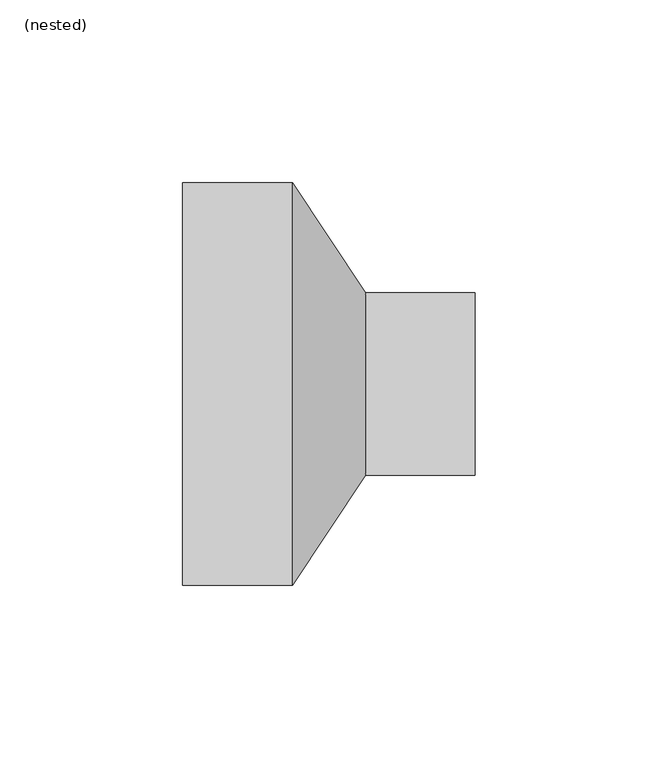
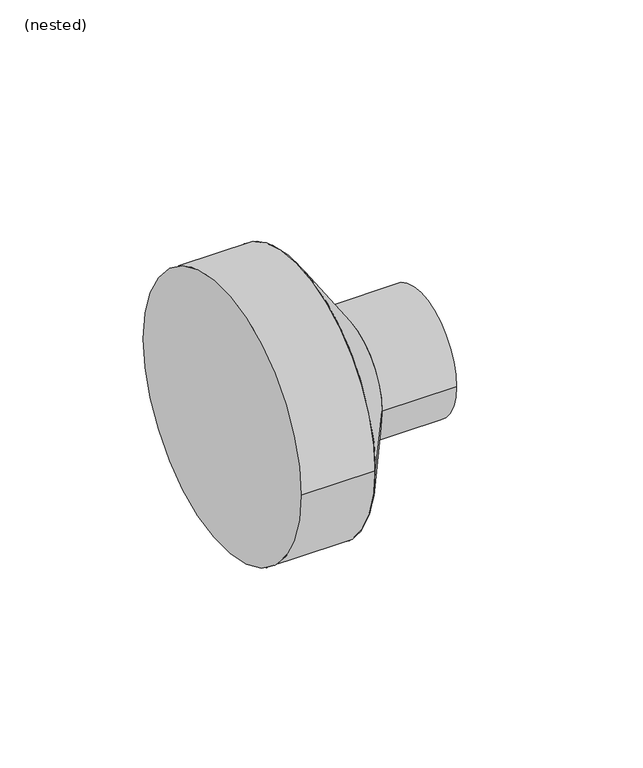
"""IFC4 building model written with IfcOpenShell, lengths in millimetres: pipe fitting geometry, NLRS_52_PIF_UN_PE verloop centrisch, kort_SH_geb : (nested)."""

from ifc_helpers import new_model, si_unit, point, frame, origin, origin_2d, place, context, project, spatial, polyline, circle_curve, trimmed, segment, composite_curve, outline, extrude, source, transform, mapped, element, save
from ifc_brep_helpers import plane_surface, revolved_surface, advanced_brep


def nested_ecac7f44(model_context):
    return source(origin(), model_context, "Body", "SolidModel", [
        advanced_brep(
        [(10.0, -25.0, 0.0), (10.0, 25.0, 0.0), (-10.0, -55.0, 0.0), (-10.0, 55.0, 0.0)],
        [
            (0, 1, circle_curve(frame((10.0, 0.0, 0.0), z_axis=(1.0, 0.0, 0.0), x_axis=(0.0, -1.0, 0.0)), 25.0)),
            (1, 0, circle_curve(frame((10.0, 0.0, 0.0), z_axis=(1.0, 0.0, 0.0), x_axis=(0.0, 1.0, 0.0)), 25.0)),
            (2, 3, circle_curve(frame((-10.0, 0.0, 0.0), z_axis=(-1.0, 0.0, 0.0), x_axis=(0.0, 1.0, 0.0)), 55.0)),
            (3, 2, circle_curve(frame((-10.0, 0.0, 0.0), z_axis=(-1.0, 0.0, 0.0), x_axis=(0.0, -1.0, 0.0)), 55.0)),
            (3, 1),
            (0, 2),
        ],
        [
            plane_surface(frame((10.0, 0.0, 0.0), z_axis=(1.0, 0.0, 0.0), x_axis=(0.0, 0.0, -1.0))),
            plane_surface(frame((-10.0, 0.0, 0.0), z_axis=(-1.0, 0.0, 0.0), x_axis=(0.0, 0.0, -1.0))),
            revolved_surface(polyline([(10.0, -25.000000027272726, 0.0), (-10.0, -55.0, 0.0)]), (26.6666667, 0.0, 0.0), (-1.0, 0.0, 0.0)),
            revolved_surface(polyline([(10.0, 25.000000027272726, 0.0), (-10.0, 55.0, 0.0)]), (26.6666667, 0.0, 0.0), (-1.0, 0.0, 0.0)),
        ],
        [
            (0, [[1, 2]]),
            (1, [[3, 4]]),
            (2, [[-4, 5, -1, 6]]),
            (3, [[-3, -6, -2, -5]]),
        ],
    ),
        extrude(outline(composite_curve([segment(trimmed(circle_curve(origin_2d(), 25.0), [point((-25.0, 0.0))], [point((25.0, 0.0))], False, "CARTESIAN"), True, "CONTINUOUS"), segment(trimmed(circle_curve(origin_2d(), 25.0), [point((25.0, 0.0))], [point((-25.0, 0.0))], False, "CARTESIAN"), True, "CONTINUOUS")], self_intersect=False)), frame((10.0, 0.0, 0.0), z_axis=(1.0, 0.0, 0.0), x_axis=(0.0, 1.0, 0.0)), (0.0, 0.0, 1.0), 30.0),
        extrude(outline(composite_curve([segment(trimmed(circle_curve(origin_2d(), 55.0), [point((-55.0, 0.0))], [point((55.0, 0.0))], False, "CARTESIAN"), True, "CONTINUOUS"), segment(trimmed(circle_curve(origin_2d(), 55.0), [point((55.0, 0.0))], [point((-55.0, 0.0))], False, "CARTESIAN"), True, "CONTINUOUS")], self_intersect=False)), frame((-40.0, 0.0, 0.0), z_axis=(1.0, 0.0, 0.0), x_axis=(0.0, 1.0, 0.0)), (0.0, 0.0, 1.0), 30.0),
    ])


if __name__ == "__main__":
    model = new_model("IFC4")
    model_context = context("Model", 3, world=origin())
    ifc_project = project(units=[si_unit("LENGTHUNIT", "METRE", prefix="MILLI")], contexts=[model_context])
    site = spatial("IfcSite", under=ifc_project)
    building = spatial("IfcBuilding", under=site)
    placement = place(None, origin())
    nested_shape = nested_ecac7f44(model_context)
    element("IfcPipeFitting", 1, ObjectType="NLRS_52_PIF_UN_PE verloop centrisch, kort_SH_geb : (nested)", at=placement, inside=building, context=model_context, shape_type="MappedRepresentation", body=[
        mapped(nested_shape, transform((0.0, 0.0, 0.0), x_axis=(1.0, 0.0, 0.0), y_axis=(0.0, 1.0, 0.0), z_axis=(0.0, 0.0, 1.0))),
    ])
    save(model, "model.ifc")
